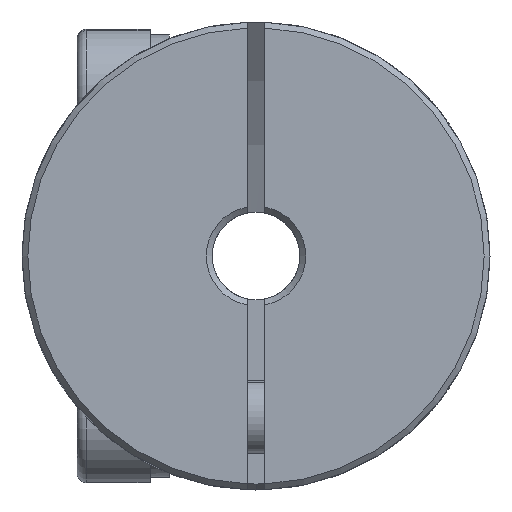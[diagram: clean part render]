
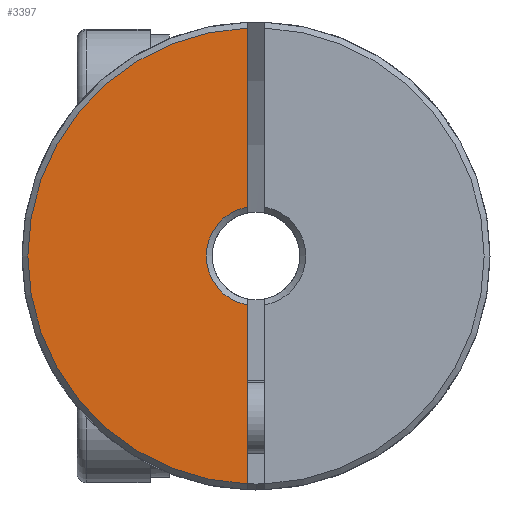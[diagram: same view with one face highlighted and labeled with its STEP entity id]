
A CAD part, front view. The second image highlights one B-rep face of the part: STEP entity #3397.
In plain terms, the highlighted planar face has unit normal (0, -1, 0).
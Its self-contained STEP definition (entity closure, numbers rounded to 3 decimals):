
#99 = VERTEX_POINT ( 'NONE', #3151 ) ;
#299 = AXIS2_PLACEMENT_3D ( 'NONE', #1522, #2167, #2756 ) ;
#1260 = DIRECTION ( 'NONE',  ( 0., 0., 1. ) ) ;
#1280 = PLANE ( 'NONE',  #5536 ) ;
#1522 = CARTESIAN_POINT ( 'NONE',  ( 0., -15.02, 0. ) ) ;
#1569 = CARTESIAN_POINT ( 'NONE',  ( -0.3, -15.02, 1.673 ) ) ;
#1894 = EDGE_CURVE ( 'NONE', #5663, #6717, #7360, .T. ) ;
#2167 = DIRECTION ( 'NONE',  ( 0., -1., 0. ) ) ;
#2407 = CIRCLE ( 'NONE', #2977, 1.7 ) ;
#2756 = DIRECTION ( 'NONE',  ( 0., 0., 1. ) ) ;
#2973 = VERTEX_POINT ( 'NONE', #1569 ) ;
#2977 = AXIS2_PLACEMENT_3D ( 'NONE', #6180, #7314, #3758 ) ;
#3026 = VECTOR ( 'NONE', #3652, 1000. ) ;
#3133 = EDGE_CURVE ( 'NONE', #99, #6717, #3707, .T. ) ;
#3148 = CARTESIAN_POINT ( 'NONE',  ( -0.3, -15.02, 7.794 ) ) ;
#3151 = CARTESIAN_POINT ( 'NONE',  ( -0.3, -15.02, -1.673 ) ) ;
#3397 = ADVANCED_FACE ( 'NONE', ( #7144 ), #1280, .F. ) ;
#3439 = EDGE_CURVE ( 'NONE', #99, #2973, #2407, .T. ) ;
#3652 = DIRECTION ( 'NONE',  ( 0., 0., -1. ) ) ;
#3681 = CARTESIAN_POINT ( 'NONE',  ( -0.3, -15.02, 0. ) ) ;
#3707 = LINE ( 'NONE', #7242, #6972 ) ;
#3758 = DIRECTION ( 'NONE',  ( 0., 0., 1. ) ) ;
#3790 = ORIENTED_EDGE ( 'NONE', *, *, #3439, .T. ) ;
#4221 = CARTESIAN_POINT ( 'NONE',  ( 0., -15.02, 0. ) ) ;
#4478 = EDGE_LOOP ( 'NONE', ( #5520, #7298, #4492, #3790 ) ) ;
#4492 = ORIENTED_EDGE ( 'NONE', *, *, #3133, .F. ) ;
#4847 = DIRECTION ( 'NONE',  ( 0., 1., 0. ) ) ;
#5434 = DIRECTION ( 'NONE',  ( 0., 0., -1. ) ) ;
#5520 = ORIENTED_EDGE ( 'NONE', *, *, #6405, .F. ) ;
#5536 = AXIS2_PLACEMENT_3D ( 'NONE', #4221, #4847, #1260 ) ;
#5663 = VERTEX_POINT ( 'NONE', #3148 ) ;
#6180 = CARTESIAN_POINT ( 'NONE',  ( 0., -15.02, 0. ) ) ;
#6405 = EDGE_CURVE ( 'NONE', #5663, #2973, #7302, .T. ) ;
#6678 = CARTESIAN_POINT ( 'NONE',  ( -0.3, -15.02, -7.794 ) ) ;
#6717 = VERTEX_POINT ( 'NONE', #6678 ) ;
#6972 = VECTOR ( 'NONE', #5434, 1000. ) ;
#7144 = FACE_OUTER_BOUND ( 'NONE', #4478, .T. ) ;
#7242 = CARTESIAN_POINT ( 'NONE',  ( -0.3, -15.02, 0. ) ) ;
#7298 = ORIENTED_EDGE ( 'NONE', *, *, #1894, .T. ) ;
#7302 = LINE ( 'NONE', #3681, #3026 ) ;
#7314 = DIRECTION ( 'NONE',  ( 0., 1., 0. ) ) ;
#7360 = CIRCLE ( 'NONE', #299, 7.8 ) ;
